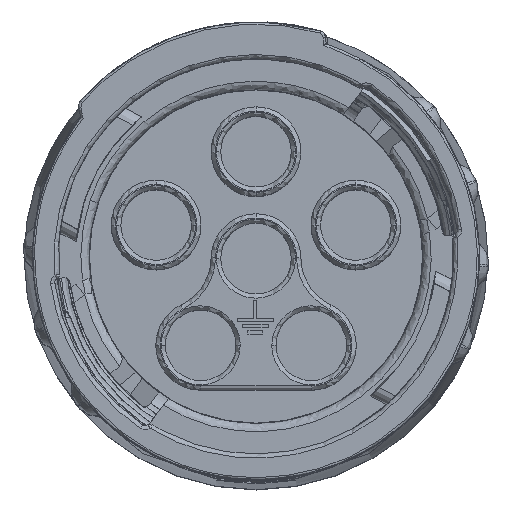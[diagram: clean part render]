
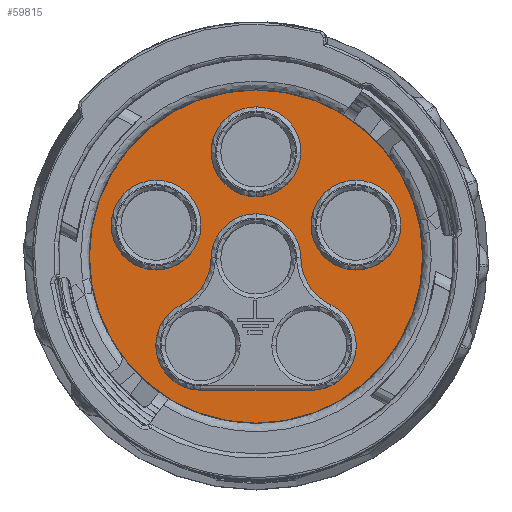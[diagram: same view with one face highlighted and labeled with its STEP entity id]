
A CAD part, top view. The second image highlights one B-rep face of the part: STEP entity #59815.
In plain terms, the highlighted planar face has unit normal (0, 0, 1).
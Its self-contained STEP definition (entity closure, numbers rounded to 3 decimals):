
#1230 = AXIS2_PLACEMENT_3D ( 'NONE', #100452, #109477, #45285 ) ;
#1582 = AXIS2_PLACEMENT_3D ( 'NONE', #109576, #26772, #73038 ) ;
#1949 = DIRECTION ( 'NONE',  ( 1., 0., 0. ) ) ;
#2816 = AXIS2_PLACEMENT_3D ( 'NONE', #86726, #113101, #13486 ) ;
#5043 = ORIENTED_EDGE ( 'NONE', *, *, #106530, .F. ) ;
#5173 = AXIS2_PLACEMENT_3D ( 'NONE', #104455, #96639, #14425 ) ;
#5601 = CARTESIAN_POINT ( 'NONE',  ( 4.675, 1.467, 679.7 ) ) ;
#7240 = CARTESIAN_POINT ( 'NONE',  ( -2.1, 4.9, 679.7 ) ) ;
#9009 = ORIENTED_EDGE ( 'NONE', *, *, #78024, .T. ) ;
#9345 = CIRCLE ( 'NONE', #63061, 2.1 ) ;
#9527 = VERTEX_POINT ( 'NONE', #93976 ) ;
#10996 = CARTESIAN_POINT ( 'NONE',  ( 0., 4.9, 679.7 ) ) ;
#11073 = EDGE_CURVE ( 'NONE', #114909, #85759, #58222, .T. ) ;
#12724 = DIRECTION ( 'NONE',  ( 1., 0., 0. ) ) ;
#13486 = DIRECTION ( 'NONE',  ( 1., 0., 0. ) ) ;
#13519 = VERTEX_POINT ( 'NONE', #110434 ) ;
#13898 = VERTEX_POINT ( 'NONE', #52006 ) ;
#14425 = DIRECTION ( 'NONE',  ( 1., 0., 0. ) ) ;
#14485 = CARTESIAN_POINT ( 'NONE',  ( -6.775, 1.467, 679.7 ) ) ;
#14902 = AXIS2_PLACEMENT_3D ( 'NONE', #53574, #19294, #101539 ) ;
#15093 = CARTESIAN_POINT ( 'NONE',  ( 0., 0., 679.7 ) ) ;
#15781 = VERTEX_POINT ( 'NONE', #33817 ) ;
#16076 = EDGE_CURVE ( 'NONE', #13898, #117344, #91260, .T. ) ;
#16910 = EDGE_CURVE ( 'NONE', #79360, #57447, #26674, .T. ) ;
#18595 = CIRCLE ( 'NONE', #1230, 2.1 ) ;
#19294 = DIRECTION ( 'NONE',  ( 0., 0., -1. ) ) ;
#20624 = CARTESIAN_POINT ( 'NONE',  ( 2.1, 4.9, 679.7 ) ) ;
#21574 = DIRECTION ( 'NONE',  ( -1., 0., 0. ) ) ;
#21760 = CARTESIAN_POINT ( 'NONE',  ( -7.797, 0., 679.7 ) ) ;
#22320 = DIRECTION ( 'NONE',  ( 0., 0., 1. ) ) ;
#22389 = DIRECTION ( 'NONE',  ( 1., 0., 0. ) ) ;
#22767 = DIRECTION ( 'NONE',  ( 1., 0., 0. ) ) ;
#23741 = EDGE_CURVE ( 'NONE', #57447, #79360, #103906, .T. ) ;
#23927 = VERTEX_POINT ( 'NONE', #82760 ) ;
#24007 = CARTESIAN_POINT ( 'NONE',  ( -4.599, -0.021, 679.7 ) ) ;
#26288 = DIRECTION ( 'NONE',  ( 0., 0., -1. ) ) ;
#26598 = CARTESIAN_POINT ( 'NONE',  ( -2.591, -6.259, 679.7 ) ) ;
#26674 = CIRCLE ( 'NONE', #78474, 7.798 ) ;
#26772 = DIRECTION ( 'NONE',  ( 0., 0., -1. ) ) ;
#27289 = VERTEX_POINT ( 'NONE', #58838 ) ;
#27775 = CARTESIAN_POINT ( 'NONE',  ( -4.675, 1.467, 679.7 ) ) ;
#29216 = CARTESIAN_POINT ( 'NONE',  ( 4.599, -0.021, 679.7 ) ) ;
#33817 = CARTESIAN_POINT ( 'NONE',  ( -4.691, -4.159, 679.7 ) ) ;
#34028 = ORIENTED_EDGE ( 'NONE', *, *, #16076, .T. ) ;
#34662 = ORIENTED_EDGE ( 'NONE', *, *, #107900, .T. ) ;
#36518 = DIRECTION ( 'NONE',  ( 0., 0., -1. ) ) ;
#37836 = VERTEX_POINT ( 'NONE', #7240 ) ;
#37934 = DIRECTION ( 'NONE',  ( 1., 0., 0. ) ) ;
#40937 = FACE_BOUND ( 'NONE', #51378, .T. ) ;
#42086 = ORIENTED_EDGE ( 'NONE', *, *, #64637, .T. ) ;
#42119 = FACE_BOUND ( 'NONE', #49424, .T. ) ;
#42879 = AXIS2_PLACEMENT_3D ( 'NONE', #45548, #36518, #73214 ) ;
#43214 = ORIENTED_EDGE ( 'NONE', *, *, #84756, .T. ) ;
#43764 = EDGE_CURVE ( 'NONE', #15781, #73746, #9345, .T. ) ;
#43842 = DIRECTION ( 'NONE',  ( 1., 0., 0. ) ) ;
#43992 = ORIENTED_EDGE ( 'NONE', *, *, #43764, .T. ) ;
#44261 = EDGE_LOOP ( 'NONE', ( #9009, #47070 ) ) ;
#44862 = CARTESIAN_POINT ( 'NONE',  ( 2.1, -0.064, 679.7 ) ) ;
#45285 = DIRECTION ( 'NONE',  ( 1., 0., 0. ) ) ;
#45548 = CARTESIAN_POINT ( 'NONE',  ( 0., -0.1, 679.7 ) ) ;
#47070 = ORIENTED_EDGE ( 'NONE', *, *, #82435, .T. ) ;
#47147 = AXIS2_PLACEMENT_3D ( 'NONE', #29216, #94003, #65912 ) ;
#47506 = EDGE_CURVE ( 'NONE', #114909, #73746, #102091, .T. ) ;
#47626 = ORIENTED_EDGE ( 'NONE', *, *, #23741, .T. ) ;
#49424 = EDGE_LOOP ( 'NONE', ( #43214, #54183 ) ) ;
#49873 = VERTEX_POINT ( 'NONE', #14485 ) ;
#51378 = EDGE_LOOP ( 'NONE', ( #5043, #42086, #34028, #90023, #43992, #77281, #95866 ) ) ;
#52006 = CARTESIAN_POINT ( 'NONE',  ( 2.591, -6.259, 679.7 ) ) ;
#53041 = CIRCLE ( 'NONE', #89471, 2.1 ) ;
#53066 = AXIS2_PLACEMENT_3D ( 'NONE', #10996, #95019, #22389 ) ;
#53574 = CARTESIAN_POINT ( 'NONE',  ( -2.591, -4.159, 679.7 ) ) ;
#54183 = ORIENTED_EDGE ( 'NONE', *, *, #80446, .T. ) ;
#56674 = DIRECTION ( 'NONE',  ( 0., 0., 1. ) ) ;
#57020 = CIRCLE ( 'NONE', #5173, 2.1 ) ;
#57447 = VERTEX_POINT ( 'NONE', #21760 ) ;
#58222 = CIRCLE ( 'NONE', #42879, 2.1 ) ;
#58838 = CARTESIAN_POINT ( 'NONE',  ( 6.775, 1.467, 679.7 ) ) ;
#59815 = ADVANCED_FACE ( 'NONE', ( #42119, #106329, #105731, #87744, #40937 ), #77593, .T. ) ;
#61493 = DIRECTION ( 'NONE',  ( 1., 0., 0. ) ) ;
#62382 = AXIS2_PLACEMENT_3D ( 'NONE', #5601, #107672, #61493 ) ;
#63061 = AXIS2_PLACEMENT_3D ( 'NONE', #115704, #26288, #71978 ) ;
#64637 = EDGE_CURVE ( 'NONE', #9527, #13898, #106387, .T. ) ;
#64813 = EDGE_LOOP ( 'NONE', ( #47626, #109521 ) ) ;
#65493 = CARTESIAN_POINT ( 'NONE',  ( -2.591, -6.259, 679.7 ) ) ;
#65912 = DIRECTION ( 'NONE',  ( 1., 0., 0. ) ) ;
#66165 = ORIENTED_EDGE ( 'NONE', *, *, #117908, .T. ) ;
#69700 = EDGE_LOOP ( 'NONE', ( #34662, #66165 ) ) ;
#71978 = DIRECTION ( 'NONE',  ( 1., 0., 0. ) ) ;
#73038 = DIRECTION ( 'NONE',  ( 1., 0., 0. ) ) ;
#73214 = DIRECTION ( 'NONE',  ( 1., 0., 0. ) ) ;
#73746 = VERTEX_POINT ( 'NONE', #78549 ) ;
#76187 = VERTEX_POINT ( 'NONE', #20624 ) ;
#76316 = CIRCLE ( 'NONE', #14902, 2.1 ) ;
#77281 = ORIENTED_EDGE ( 'NONE', *, *, #47506, .F. ) ;
#77445 = AXIS2_PLACEMENT_3D ( 'NONE', #15093, #22320, #12724 ) ;
#77593 = PLANE ( 'NONE',  #77445 ) ;
#78024 = EDGE_CURVE ( 'NONE', #37836, #76187, #89492, .T. ) ;
#78474 = AXIS2_PLACEMENT_3D ( 'NONE', #84847, #56674, #1949 ) ;
#78549 = CARTESIAN_POINT ( 'NONE',  ( -3.508, -2.27, 679.7 ) ) ;
#79360 = VERTEX_POINT ( 'NONE', #111526 ) ;
#80214 = VECTOR ( 'NONE', #21574, 1000. ) ;
#80446 = EDGE_CURVE ( 'NONE', #23927, #49873, #53041, .T. ) ;
#81726 = EDGE_CURVE ( 'NONE', #117344, #15781, #76316, .T. ) ;
#82435 = EDGE_CURVE ( 'NONE', #76187, #37836, #57020, .T. ) ;
#82760 = CARTESIAN_POINT ( 'NONE',  ( -2.575, 1.467, 679.7 ) ) ;
#84756 = EDGE_CURVE ( 'NONE', #49873, #23927, #18595, .T. ) ;
#84847 = CARTESIAN_POINT ( 'NONE',  ( 0., 0., 679.7 ) ) ;
#85759 = VERTEX_POINT ( 'NONE', #44862 ) ;
#86726 = CARTESIAN_POINT ( 'NONE',  ( 2.591, -4.159, 679.7 ) ) ;
#87276 = CIRCLE ( 'NONE', #62382, 2.1 ) ;
#87744 = FACE_OUTER_BOUND ( 'NONE', #64813, .T. ) ;
#89471 = AXIS2_PLACEMENT_3D ( 'NONE', #27775, #99209, #37934 ) ;
#89492 = CIRCLE ( 'NONE', #53066, 2.1 ) ;
#90023 = ORIENTED_EDGE ( 'NONE', *, *, #81726, .T. ) ;
#91260 = LINE ( 'NONE', #65493, #80214 ) ;
#92477 = AXIS2_PLACEMENT_3D ( 'NONE', #24007, #115202, #43842 ) ;
#93976 = CARTESIAN_POINT ( 'NONE',  ( 3.508, -2.27, 679.7 ) ) ;
#94003 = DIRECTION ( 'NONE',  ( 0., 0., -1. ) ) ;
#94285 = AXIS2_PLACEMENT_3D ( 'NONE', #97173, #104997, #22767 ) ;
#95019 = DIRECTION ( 'NONE',  ( 0., 0., -1. ) ) ;
#95866 = ORIENTED_EDGE ( 'NONE', *, *, #11073, .T. ) ;
#96639 = DIRECTION ( 'NONE',  ( 0., 0., -1. ) ) ;
#97173 = CARTESIAN_POINT ( 'NONE',  ( 0., 0., 679.7 ) ) ;
#98902 = CIRCLE ( 'NONE', #47147, 2.5 ) ;
#99209 = DIRECTION ( 'NONE',  ( 0., 0., -1. ) ) ;
#100452 = CARTESIAN_POINT ( 'NONE',  ( -4.675, 1.467, 679.7 ) ) ;
#101192 = CARTESIAN_POINT ( 'NONE',  ( -2.1, -0.064, 679.7 ) ) ;
#101539 = DIRECTION ( 'NONE',  ( 1., 0., 0. ) ) ;
#102091 = CIRCLE ( 'NONE', #92477, 2.5 ) ;
#103906 = CIRCLE ( 'NONE', #94285, 7.798 ) ;
#104455 = CARTESIAN_POINT ( 'NONE',  ( 0., 4.9, 679.7 ) ) ;
#104997 = DIRECTION ( 'NONE',  ( 0., 0., 1. ) ) ;
#105731 = FACE_BOUND ( 'NONE', #69700, .T. ) ;
#106329 = FACE_BOUND ( 'NONE', #44261, .T. ) ;
#106387 = CIRCLE ( 'NONE', #2816, 2.1 ) ;
#106530 = EDGE_CURVE ( 'NONE', #9527, #85759, #98902, .T. ) ;
#107672 = DIRECTION ( 'NONE',  ( 0., 0., -1. ) ) ;
#107900 = EDGE_CURVE ( 'NONE', #13519, #27289, #118504, .T. ) ;
#109477 = DIRECTION ( 'NONE',  ( 0., 0., -1. ) ) ;
#109521 = ORIENTED_EDGE ( 'NONE', *, *, #16910, .T. ) ;
#109576 = CARTESIAN_POINT ( 'NONE',  ( 4.675, 1.467, 679.7 ) ) ;
#110434 = CARTESIAN_POINT ( 'NONE',  ( 2.575, 1.467, 679.7 ) ) ;
#111526 = CARTESIAN_POINT ( 'NONE',  ( 7.798, 0., 679.7 ) ) ;
#113101 = DIRECTION ( 'NONE',  ( 0., 0., -1. ) ) ;
#114909 = VERTEX_POINT ( 'NONE', #101192 ) ;
#115202 = DIRECTION ( 'NONE',  ( 0., 0., -1. ) ) ;
#115704 = CARTESIAN_POINT ( 'NONE',  ( -2.591, -4.159, 679.7 ) ) ;
#117344 = VERTEX_POINT ( 'NONE', #26598 ) ;
#117908 = EDGE_CURVE ( 'NONE', #27289, #13519, #87276, .T. ) ;
#118504 = CIRCLE ( 'NONE', #1582, 2.1 ) ;
